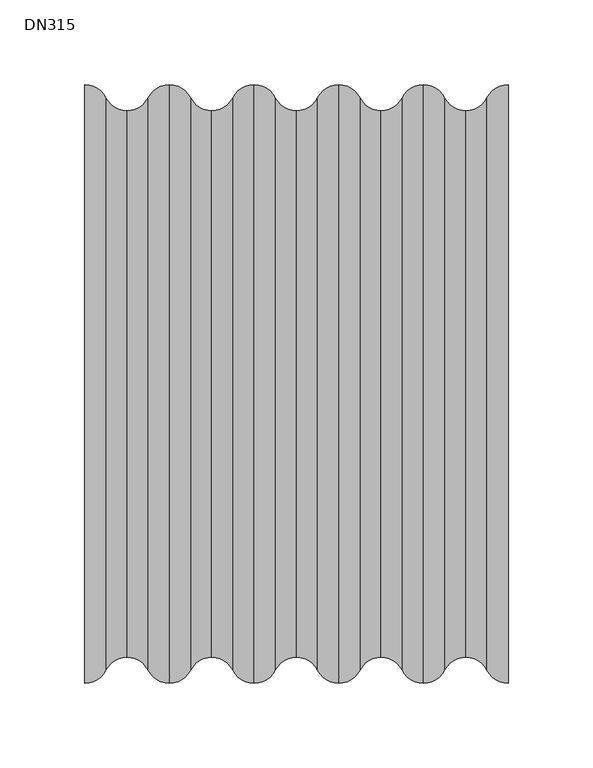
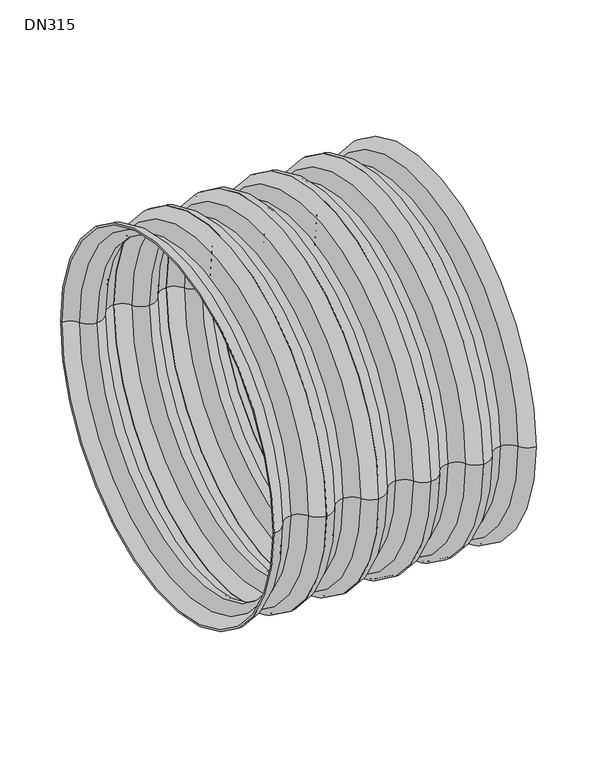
"""IFC4 building model written with IfcOpenShell, lengths in millimetres: pipe fitting geometry, NLRS-90-PIF_Z_DO_NOT_USE_Wavin PVC Buitenriolering Schachtbuis (Nested) : DN315."""

from ifc_helpers import new_model, si_unit, point, frame, origin, place, context, project, spatial, circle_curve, ellipse_curve, trimmed, source, transform, mapped, element, save
from ifc_brep_helpers import plane_surface, revolved_surface, advanced_brep


def dn315_c06aca54(model_context):
    return source(origin(), model_context, "Body", "AdvancedBrep", [
        advanced_brep(
        [(550.0, -176.5, 0.0), (550.0, 176.5, 0.0), (562.5, 168.85, 0.0), (562.5, -168.85, 0.0), (550.0, -174.8, 0.0), (550.0, 174.8, 0.0), (562.5, -167.15, 0.0), (562.5, 167.15, 0.0), (575.0, -159.5, 0.0), (575.0, 159.5, 0.0), (587.5, -167.15, 0.0), (587.5, 167.15, 0.0), (600.0, -174.8, 0.0), (600.0, 174.8, 0.0), (600.0, -176.5, 0.0), (600.0, 176.5, 0.0), (587.5, -168.85, 0.0), (587.5, 168.85, 0.0), (575.0, -161.2, 0.0), (575.0, 161.2, 0.0)],
        [
            (0, 1, circle_curve(frame((550.0, 0.0, 0.0), z_axis=(1.0, 0.0, 0.0), x_axis=(0.0, 1.0, 0.0)), 176.5)),
            (1, 2, circle_curve(frame((550.0, 162.4625817, 0.0), z_axis=(0.0, 0.0, -1.0), x_axis=(1.0, 0.0, 0.0)), 14.0374183)),
            (2, 3, circle_curve(frame((562.5, 0.0, 0.0), z_axis=(-1.0, 0.0, 0.0), x_axis=(0.0, 1.0, 0.0)), 168.85)),
            (3, 0, circle_curve(frame((550.0, -162.4625817, 0.0), z_axis=(0.0, 0.0, -1.0), x_axis=(1.0, 0.0, 0.0)), 14.0374183)),
            (1, 0, circle_curve(frame((550.0, 0.0, 0.0), z_axis=(1.0, 0.0, 0.0), x_axis=(0.0, 1.0, 0.0)), 176.5)),
            (3, 2, circle_curve(frame((562.5, 0.0, 0.0), z_axis=(-1.0, 0.0, 0.0), x_axis=(0.0, 1.0, 0.0)), 168.85)),
            (4, 5, circle_curve(frame((550.0, 0.0, 0.0), z_axis=(1.0, 0.0, 0.0), x_axis=(0.0, 1.0, 0.0)), 174.8)),
            (5, 1),
            (0, 4),
            (5, 4, circle_curve(frame((550.0, 0.0, 0.0), z_axis=(1.0, 0.0, 0.0), x_axis=(0.0, 1.0, 0.0)), 174.8)),
            (6, 7, circle_curve(frame((562.5, 0.0, 0.0), z_axis=(1.0, 0.0, 0.0), x_axis=(0.0, 1.0, 0.0)), 167.15)),
            (7, 5, circle_curve(frame((550.0, 160.7625817, 0.0), z_axis=(0.0, 0.0, 1.0), x_axis=(1.0, 0.0, 0.0)), 14.0374183)),
            (4, 6, circle_curve(frame((550.0, -160.7625817, 0.0), z_axis=(0.0, 0.0, 1.0), x_axis=(1.0, 0.0, 0.0)), 14.0374183)),
            (7, 6, circle_curve(frame((562.5, 0.0, 0.0), z_axis=(1.0, 0.0, 0.0), x_axis=(0.0, 1.0, 0.0)), 167.15)),
            (8, 9, circle_curve(frame((575.0, 0.0, 0.0), z_axis=(1.0, 0.0, 0.0), x_axis=(0.0, 1.0, 0.0)), 159.5)),
            (9, 7, circle_curve(frame((575.0, 173.5374183, 0.0), z_axis=(0.0, 0.0, -1.0), x_axis=(1.0, 0.0, 0.0)), 14.0374183)),
            (6, 8, circle_curve(frame((575.0, -173.5374183, 0.0), z_axis=(0.0, 0.0, -1.0), x_axis=(1.0, 0.0, 0.0)), 14.0374183)),
            (9, 8, circle_curve(frame((575.0, 0.0, 0.0), z_axis=(1.0, 0.0, 0.0), x_axis=(0.0, 1.0, 0.0)), 159.5)),
            (10, 11, circle_curve(frame((587.5, 0.0, 0.0), z_axis=(1.0, 0.0, 0.0), x_axis=(0.0, 1.0, 0.0)), 167.15)),
            (11, 9, circle_curve(frame((575.0, 173.5374183, 0.0), z_axis=(0.0, 0.0, -1.0), x_axis=(1.0, 0.0, 0.0)), 14.0374183)),
            (8, 10, circle_curve(frame((575.0, -173.5374183, 0.0), z_axis=(0.0, 0.0, -1.0), x_axis=(1.0, 0.0, 0.0)), 14.0374183)),
            (11, 10, circle_curve(frame((587.5, 0.0, 0.0), z_axis=(1.0, 0.0, 0.0), x_axis=(0.0, 1.0, 0.0)), 167.15)),
            (12, 13, circle_curve(frame((600.0, 0.0, 0.0), z_axis=(1.0, 0.0, 0.0), x_axis=(0.0, 1.0, 0.0)), 174.8)),
            (13, 11, circle_curve(frame((600.0, 160.7625817, 0.0), z_axis=(0.0, 0.0, 1.0), x_axis=(1.0, 0.0, 0.0)), 14.0374183)),
            (10, 12, circle_curve(frame((600.0, -160.7625817, 0.0), z_axis=(0.0, 0.0, 1.0), x_axis=(1.0, 0.0, 0.0)), 14.0374183)),
            (13, 12, circle_curve(frame((600.0, 0.0, 0.0), z_axis=(1.0, 0.0, 0.0), x_axis=(0.0, 1.0, 0.0)), 174.8)),
            (14, 15, circle_curve(frame((600.0, 0.0, 0.0), z_axis=(1.0, 0.0, 0.0), x_axis=(0.0, 1.0, 0.0)), 176.5)),
            (15, 13),
            (12, 14),
            (15, 14, circle_curve(frame((600.0, 0.0, 0.0), z_axis=(1.0, 0.0, 0.0), x_axis=(0.0, 1.0, 0.0)), 176.5)),
            (16, 17, circle_curve(frame((587.5, 0.0, 0.0), z_axis=(1.0, 0.0, 0.0), x_axis=(0.0, 1.0, 0.0)), 168.85)),
            (17, 15, circle_curve(frame((600.0, 162.4625817, 0.0), z_axis=(0.0, 0.0, -1.0), x_axis=(1.0, 0.0, 0.0)), 14.0374183)),
            (14, 16, circle_curve(frame((600.0, -162.4625817, 0.0), z_axis=(0.0, 0.0, -1.0), x_axis=(1.0, 0.0, 0.0)), 14.0374183)),
            (17, 16, circle_curve(frame((587.5, 0.0, 0.0), z_axis=(1.0, 0.0, 0.0), x_axis=(0.0, 1.0, 0.0)), 168.85)),
            (18, 19, circle_curve(frame((575.0, 0.0, 0.0), z_axis=(1.0, 0.0, 0.0), x_axis=(0.0, 1.0, 0.0)), 161.2)),
            (19, 17, circle_curve(frame((575.0, 175.2374183, 0.0), z_axis=(0.0, 0.0, 1.0), x_axis=(1.0, 0.0, 0.0)), 14.0374183)),
            (16, 18, circle_curve(frame((575.0, -175.2374183, 0.0), z_axis=(0.0, 0.0, 1.0), x_axis=(1.0, 0.0, 0.0)), 14.0374183)),
            (19, 18, circle_curve(frame((575.0, 0.0, 0.0), z_axis=(1.0, 0.0, 0.0), x_axis=(0.0, 1.0, 0.0)), 161.2)),
            (2, 19, circle_curve(frame((575.0, 175.2374183, 0.0), z_axis=(0.0, 0.0, 1.0), x_axis=(1.0, 0.0, 0.0)), 14.0374183)),
            (18, 3, circle_curve(frame((575.0, -175.2374183, 0.0), z_axis=(0.0, 0.0, 1.0), x_axis=(1.0, 0.0, 0.0)), 14.0374183)),
        ],
        [
            revolved_surface(trimmed(ellipse_curve(frame((550.0, 162.4625817, 0.0), z_axis=(0.0, 0.0, 1.0), x_axis=(1.0, 0.0, 0.0)), 14.0374183, 14.0374183), [point((562.5, 168.85, 0.0))], [point((550.0, 176.5, 0.0))], True, "CARTESIAN"), (500.0, 0.0, 0.0), (-1.0, 0.0, 0.0)),
            plane_surface(frame((550.0, 0.0, 0.0), z_axis=(-1.0, 0.0, 0.0), x_axis=(0.0, 1.0, 0.0))),
            revolved_surface(trimmed(ellipse_curve(frame((550.0, 160.7625817, 0.0), z_axis=(0.0, 0.0, -1.0), x_axis=(1.0, 0.0, 0.0)), 14.0374183, 14.0374183), [point((550.0, 174.8, 0.0))], [point((562.5, 167.15, 0.0))], True, "CARTESIAN"), (500.0, 0.0, 0.0), (-1.0, 0.0, 0.0)),
            revolved_surface(trimmed(ellipse_curve(frame((575.0, 173.5374183, 0.0), z_axis=(0.0, 0.0, 1.0), x_axis=(1.0, 0.0, 0.0)), 14.0374183, 14.0374183), [point((562.5, 167.15, 0.0))], [point((575.0, 159.5, 0.0))], True, "CARTESIAN"), (500.0, 0.0, 0.0), (-1.0, 0.0, 0.0)),
            revolved_surface(trimmed(ellipse_curve(frame((575.0, 173.5374183, 0.0), z_axis=(0.0, 0.0, 1.0), x_axis=(1.0, 0.0, 0.0)), 14.0374183, 14.0374183), [point((575.0, 159.5, 0.0))], [point((587.5, 167.15, 0.0))], True, "CARTESIAN"), (500.0, 0.0, 0.0), (-1.0, 0.0, 0.0)),
            revolved_surface(trimmed(ellipse_curve(frame((600.0, 160.7625817, 0.0), z_axis=(0.0, 0.0, -1.0), x_axis=(1.0, 0.0, 0.0)), 14.0374183, 14.0374183), [point((587.5, 167.15, 0.0))], [point((600.0, 174.8, 0.0))], True, "CARTESIAN"), (500.0, 0.0, 0.0), (-1.0, 0.0, 0.0)),
            plane_surface(frame((600.0, 0.0, 0.0), z_axis=(1.0, 0.0, 0.0), x_axis=(0.0, 1.0, 0.0))),
            revolved_surface(trimmed(ellipse_curve(frame((600.0, 162.4625817, 0.0), z_axis=(0.0, 0.0, 1.0), x_axis=(1.0, 0.0, 0.0)), 14.0374183, 14.0374183), [point((600.0, 176.5, 0.0))], [point((587.5, 168.85, 0.0))], True, "CARTESIAN"), (500.0, 0.0, 0.0), (-1.0, 0.0, 0.0)),
            revolved_surface(trimmed(ellipse_curve(frame((575.0, 175.2374183, 0.0), z_axis=(0.0, 0.0, -1.0), x_axis=(1.0, 0.0, 0.0)), 14.0374183, 14.0374183), [point((587.5, 168.85, 0.0))], [point((575.0, 161.2, 0.0))], True, "CARTESIAN"), (500.0, 0.0, 0.0), (-1.0, 0.0, 0.0)),
            revolved_surface(trimmed(ellipse_curve(frame((575.0, 175.2374183, 0.0), z_axis=(0.0, 0.0, -1.0), x_axis=(1.0, 0.0, 0.0)), 14.0374183, 14.0374183), [point((575.0, 161.2, 0.0))], [point((562.5, 168.85, 0.0))], True, "CARTESIAN"), (500.0, 0.0, 0.0), (-1.0, 0.0, 0.0)),
        ],
        [
            (0, [[1, 2, 3, 4]]),
            (0, [[5, -4, 6, -2]]),
            (1, [[7, 8, -1, 9]]),
            (1, [[10, -9, -5, -8]]),
            (2, [[11, 12, -7, 13]]),
            (2, [[14, -13, -10, -12]]),
            (3, [[15, 16, -11, 17]]),
            (3, [[18, -17, -14, -16]]),
            (4, [[19, 20, -15, 21]]),
            (4, [[22, -21, -18, -20]]),
            (5, [[23, 24, -19, 25]]),
            (5, [[26, -25, -22, -24]]),
            (6, [[27, 28, -23, 29]]),
            (6, [[30, -29, -26, -28]]),
            (7, [[31, 32, -27, 33]]),
            (7, [[34, -33, -30, -32]]),
            (8, [[35, 36, -31, 37]]),
            (8, [[38, -37, -34, -36]]),
            (9, [[-3, 39, -35, 40]]),
            (9, [[-6, -40, -38, -39]]),
        ],
    ),
        advanced_brep(
        [(500.0, -176.5, 0.0), (500.0, 176.5, 0.0), (512.5, 168.85, 0.0), (512.5, -168.85, 0.0), (500.0, -174.8, 0.0), (500.0, 174.8, 0.0), (512.5, -167.15, 0.0), (512.5, 167.15, 0.0), (525.0, -159.5, 0.0), (525.0, 159.5, 0.0), (537.5, -167.15, 0.0), (537.5, 167.15, 0.0), (550.0, -174.8, 0.0), (550.0, 174.8, 0.0), (550.0, -176.5, 0.0), (550.0, 176.5, 0.0), (537.5, -168.85, 0.0), (537.5, 168.85, 0.0), (525.0, -161.2, 0.0), (525.0, 161.2, 0.0)],
        [
            (0, 1, circle_curve(frame((500.0, 0.0, 0.0), z_axis=(1.0, 0.0, 0.0), x_axis=(0.0, 1.0, 0.0)), 176.5)),
            (1, 2, circle_curve(frame((500.0, 162.4625817, 0.0), z_axis=(0.0, 0.0, -1.0), x_axis=(1.0, 0.0, 0.0)), 14.0374183)),
            (2, 3, circle_curve(frame((512.5, 0.0, 0.0), z_axis=(-1.0, 0.0, 0.0), x_axis=(0.0, 1.0, 0.0)), 168.85)),
            (3, 0, circle_curve(frame((500.0, -162.4625817, 0.0), z_axis=(0.0, 0.0, -1.0), x_axis=(1.0, 0.0, 0.0)), 14.0374183)),
            (1, 0, circle_curve(frame((500.0, 0.0, 0.0), z_axis=(1.0, 0.0, 0.0), x_axis=(0.0, 1.0, 0.0)), 176.5)),
            (3, 2, circle_curve(frame((512.5, 0.0, 0.0), z_axis=(-1.0, 0.0, 0.0), x_axis=(0.0, 1.0, 0.0)), 168.85)),
            (4, 5, circle_curve(frame((500.0, 0.0, 0.0), z_axis=(1.0, 0.0, 0.0), x_axis=(0.0, 1.0, 0.0)), 174.8)),
            (5, 1),
            (0, 4),
            (5, 4, circle_curve(frame((500.0, 0.0, 0.0), z_axis=(1.0, 0.0, 0.0), x_axis=(0.0, 1.0, 0.0)), 174.8)),
            (6, 7, circle_curve(frame((512.5, 0.0, 0.0), z_axis=(1.0, 0.0, 0.0), x_axis=(0.0, 1.0, 0.0)), 167.15)),
            (7, 5, circle_curve(frame((500.0, 160.7625817, 0.0), z_axis=(0.0, 0.0, 1.0), x_axis=(1.0, 0.0, 0.0)), 14.0374183)),
            (4, 6, circle_curve(frame((500.0, -160.7625817, 0.0), z_axis=(0.0, 0.0, 1.0), x_axis=(1.0, 0.0, 0.0)), 14.0374183)),
            (7, 6, circle_curve(frame((512.5, 0.0, 0.0), z_axis=(1.0, 0.0, 0.0), x_axis=(0.0, 1.0, 0.0)), 167.15)),
            (8, 9, circle_curve(frame((525.0, 0.0, 0.0), z_axis=(1.0, 0.0, 0.0), x_axis=(0.0, 1.0, 0.0)), 159.5)),
            (9, 7, circle_curve(frame((525.0, 173.5374183, 0.0), z_axis=(0.0, 0.0, -1.0), x_axis=(1.0, 0.0, 0.0)), 14.0374183)),
            (6, 8, circle_curve(frame((525.0, -173.5374183, 0.0), z_axis=(0.0, 0.0, -1.0), x_axis=(1.0, 0.0, 0.0)), 14.0374183)),
            (9, 8, circle_curve(frame((525.0, 0.0, 0.0), z_axis=(1.0, 0.0, 0.0), x_axis=(0.0, 1.0, 0.0)), 159.5)),
            (10, 11, circle_curve(frame((537.5, 0.0, 0.0), z_axis=(1.0, 0.0, 0.0), x_axis=(0.0, 1.0, 0.0)), 167.15)),
            (11, 9, circle_curve(frame((525.0, 173.5374183, 0.0), z_axis=(0.0, 0.0, -1.0), x_axis=(1.0, 0.0, 0.0)), 14.0374183)),
            (8, 10, circle_curve(frame((525.0, -173.5374183, 0.0), z_axis=(0.0, 0.0, -1.0), x_axis=(1.0, 0.0, 0.0)), 14.0374183)),
            (11, 10, circle_curve(frame((537.5, 0.0, 0.0), z_axis=(1.0, 0.0, 0.0), x_axis=(0.0, 1.0, 0.0)), 167.15)),
            (12, 13, circle_curve(frame((550.0, 0.0, 0.0), z_axis=(1.0, 0.0, 0.0), x_axis=(0.0, 1.0, 0.0)), 174.8)),
            (13, 11, circle_curve(frame((550.0, 160.7625817, 0.0), z_axis=(0.0, 0.0, 1.0), x_axis=(1.0, 0.0, 0.0)), 14.0374183)),
            (10, 12, circle_curve(frame((550.0, -160.7625817, 0.0), z_axis=(0.0, 0.0, 1.0), x_axis=(1.0, 0.0, 0.0)), 14.0374183)),
            (13, 12, circle_curve(frame((550.0, 0.0, 0.0), z_axis=(1.0, 0.0, 0.0), x_axis=(0.0, 1.0, 0.0)), 174.8)),
            (14, 15, circle_curve(frame((550.0, 0.0, 0.0), z_axis=(1.0, 0.0, 0.0), x_axis=(0.0, 1.0, 0.0)), 176.5)),
            (15, 13),
            (12, 14),
            (15, 14, circle_curve(frame((550.0, 0.0, 0.0), z_axis=(1.0, 0.0, 0.0), x_axis=(0.0, 1.0, 0.0)), 176.5)),
            (16, 17, circle_curve(frame((537.5, 0.0, 0.0), z_axis=(1.0, 0.0, 0.0), x_axis=(0.0, 1.0, 0.0)), 168.85)),
            (17, 15, circle_curve(frame((550.0, 162.4625817, 0.0), z_axis=(0.0, 0.0, -1.0), x_axis=(1.0, 0.0, 0.0)), 14.0374183)),
            (14, 16, circle_curve(frame((550.0, -162.4625817, 0.0), z_axis=(0.0, 0.0, -1.0), x_axis=(1.0, 0.0, 0.0)), 14.0374183)),
            (17, 16, circle_curve(frame((537.5, 0.0, 0.0), z_axis=(1.0, 0.0, 0.0), x_axis=(0.0, 1.0, 0.0)), 168.85)),
            (18, 19, circle_curve(frame((525.0, 0.0, 0.0), z_axis=(1.0, 0.0, 0.0), x_axis=(0.0, 1.0, 0.0)), 161.2)),
            (19, 17, circle_curve(frame((525.0, 175.2374183, 0.0), z_axis=(0.0, 0.0, 1.0), x_axis=(1.0, 0.0, 0.0)), 14.0374183)),
            (16, 18, circle_curve(frame((525.0, -175.2374183, 0.0), z_axis=(0.0, 0.0, 1.0), x_axis=(1.0, 0.0, 0.0)), 14.0374183)),
            (19, 18, circle_curve(frame((525.0, 0.0, 0.0), z_axis=(1.0, 0.0, 0.0), x_axis=(0.0, 1.0, 0.0)), 161.2)),
            (2, 19, circle_curve(frame((525.0, 175.2374183, 0.0), z_axis=(0.0, 0.0, 1.0), x_axis=(1.0, 0.0, 0.0)), 14.0374183)),
            (18, 3, circle_curve(frame((525.0, -175.2374183, 0.0), z_axis=(0.0, 0.0, 1.0), x_axis=(1.0, 0.0, 0.0)), 14.0374183)),
        ],
        [
            revolved_surface(trimmed(ellipse_curve(frame((500.0, 162.4625817, 0.0), z_axis=(0.0, 0.0, 1.0), x_axis=(1.0, 0.0, 0.0)), 14.0374183, 14.0374183), [point((512.5, 168.85, 0.0))], [point((500.0, 176.5, 0.0))], True, "CARTESIAN"), (450.0, 0.0, 0.0), (-1.0, 0.0, 0.0)),
            plane_surface(frame((500.0, 0.0, 0.0), z_axis=(-1.0, 0.0, 0.0), x_axis=(0.0, 1.0, 0.0))),
            revolved_surface(trimmed(ellipse_curve(frame((500.0, 160.7625817, 0.0), z_axis=(0.0, 0.0, -1.0), x_axis=(1.0, 0.0, 0.0)), 14.0374183, 14.0374183), [point((500.0, 174.8, 0.0))], [point((512.5, 167.15, 0.0))], True, "CARTESIAN"), (450.0, 0.0, 0.0), (-1.0, 0.0, 0.0)),
            revolved_surface(trimmed(ellipse_curve(frame((525.0, 173.5374183, 0.0), z_axis=(0.0, 0.0, 1.0), x_axis=(1.0, 0.0, 0.0)), 14.0374183, 14.0374183), [point((512.5, 167.15, 0.0))], [point((525.0, 159.5, 0.0))], True, "CARTESIAN"), (450.0, 0.0, 0.0), (-1.0, 0.0, 0.0)),
            revolved_surface(trimmed(ellipse_curve(frame((525.0, 173.5374183, 0.0), z_axis=(0.0, 0.0, 1.0), x_axis=(1.0, 0.0, 0.0)), 14.0374183, 14.0374183), [point((525.0, 159.5, 0.0))], [point((537.5, 167.15, 0.0))], True, "CARTESIAN"), (450.0, 0.0, 0.0), (-1.0, 0.0, 0.0)),
            revolved_surface(trimmed(ellipse_curve(frame((550.0, 160.7625817, 0.0), z_axis=(0.0, 0.0, -1.0), x_axis=(1.0, 0.0, 0.0)), 14.0374183, 14.0374183), [point((537.5, 167.15, 0.0))], [point((550.0, 174.8, 0.0))], True, "CARTESIAN"), (450.0, 0.0, 0.0), (-1.0, 0.0, 0.0)),
            plane_surface(frame((550.0, 0.0, 0.0), z_axis=(1.0, 0.0, 0.0), x_axis=(0.0, 1.0, 0.0))),
            revolved_surface(trimmed(ellipse_curve(frame((550.0, 162.4625817, 0.0), z_axis=(0.0, 0.0, 1.0), x_axis=(1.0, 0.0, 0.0)), 14.0374183, 14.0374183), [point((550.0, 176.5, 0.0))], [point((537.5, 168.85, 0.0))], True, "CARTESIAN"), (450.0, 0.0, 0.0), (-1.0, 0.0, 0.0)),
            revolved_surface(trimmed(ellipse_curve(frame((525.0, 175.2374183, 0.0), z_axis=(0.0, 0.0, -1.0), x_axis=(1.0, 0.0, 0.0)), 14.0374183, 14.0374183), [point((537.5, 168.85, 0.0))], [point((525.0, 161.2, 0.0))], True, "CARTESIAN"), (450.0, 0.0, 0.0), (-1.0, 0.0, 0.0)),
            revolved_surface(trimmed(ellipse_curve(frame((525.0, 175.2374183, 0.0), z_axis=(0.0, 0.0, -1.0), x_axis=(1.0, 0.0, 0.0)), 14.0374183, 14.0374183), [point((525.0, 161.2, 0.0))], [point((512.5, 168.85, 0.0))], True, "CARTESIAN"), (450.0, 0.0, 0.0), (-1.0, 0.0, 0.0)),
        ],
        [
            (0, [[1, 2, 3, 4]]),
            (0, [[5, -4, 6, -2]]),
            (1, [[7, 8, -1, 9]]),
            (1, [[10, -9, -5, -8]]),
            (2, [[11, 12, -7, 13]]),
            (2, [[14, -13, -10, -12]]),
            (3, [[15, 16, -11, 17]]),
            (3, [[18, -17, -14, -16]]),
            (4, [[19, 20, -15, 21]]),
            (4, [[22, -21, -18, -20]]),
            (5, [[23, 24, -19, 25]]),
            (5, [[26, -25, -22, -24]]),
            (6, [[27, 28, -23, 29]]),
            (6, [[30, -29, -26, -28]]),
            (7, [[31, 32, -27, 33]]),
            (7, [[34, -33, -30, -32]]),
            (8, [[35, 36, -31, 37]]),
            (8, [[38, -37, -34, -36]]),
            (9, [[-3, 39, -35, 40]]),
            (9, [[-6, -40, -38, -39]]),
        ],
    ),
        advanced_brep(
        [(450.0, -176.5, 0.0), (450.0, 176.5, 0.0), (462.5, 168.85, 0.0), (462.5, -168.85, 0.0), (450.0, -174.8, 0.0), (450.0, 174.8, 0.0), (462.5, -167.15, 0.0), (462.5, 167.15, 0.0), (475.0, -159.5, 0.0), (475.0, 159.5, 0.0), (487.5, -167.15, 0.0), (487.5, 167.15, 0.0), (500.0, -174.8, 0.0), (500.0, 174.8, 0.0), (500.0, -176.5, 0.0), (500.0, 176.5, 0.0), (487.5, -168.85, 0.0), (487.5, 168.85, 0.0), (475.0, -161.2, 0.0), (475.0, 161.2, 0.0)],
        [
            (0, 1, circle_curve(frame((450.0, 0.0, 0.0), z_axis=(1.0, 0.0, 0.0), x_axis=(0.0, 1.0, 0.0)), 176.5)),
            (1, 2, circle_curve(frame((450.0, 162.4625817, 0.0), z_axis=(0.0, 0.0, -1.0), x_axis=(1.0, 0.0, 0.0)), 14.0374183)),
            (2, 3, circle_curve(frame((462.5, 0.0, 0.0), z_axis=(-1.0, 0.0, 0.0), x_axis=(0.0, 1.0, 0.0)), 168.85)),
            (3, 0, circle_curve(frame((450.0, -162.4625817, 0.0), z_axis=(0.0, 0.0, -1.0), x_axis=(1.0, 0.0, 0.0)), 14.0374183)),
            (1, 0, circle_curve(frame((450.0, 0.0, 0.0), z_axis=(1.0, 0.0, 0.0), x_axis=(0.0, 1.0, 0.0)), 176.5)),
            (3, 2, circle_curve(frame((462.5, 0.0, 0.0), z_axis=(-1.0, 0.0, 0.0), x_axis=(0.0, 1.0, 0.0)), 168.85)),
            (4, 5, circle_curve(frame((450.0, 0.0, 0.0), z_axis=(1.0, 0.0, 0.0), x_axis=(0.0, 1.0, 0.0)), 174.8)),
            (5, 1),
            (0, 4),
            (5, 4, circle_curve(frame((450.0, 0.0, 0.0), z_axis=(1.0, 0.0, 0.0), x_axis=(0.0, 1.0, 0.0)), 174.8)),
            (6, 7, circle_curve(frame((462.5, 0.0, 0.0), z_axis=(1.0, 0.0, 0.0), x_axis=(0.0, 1.0, 0.0)), 167.15)),
            (7, 5, circle_curve(frame((450.0, 160.7625817, 0.0), z_axis=(0.0, 0.0, 1.0), x_axis=(1.0, 0.0, 0.0)), 14.0374183)),
            (4, 6, circle_curve(frame((450.0, -160.7625817, 0.0), z_axis=(0.0, 0.0, 1.0), x_axis=(1.0, 0.0, 0.0)), 14.0374183)),
            (7, 6, circle_curve(frame((462.5, 0.0, 0.0), z_axis=(1.0, 0.0, 0.0), x_axis=(0.0, 1.0, 0.0)), 167.15)),
            (8, 9, circle_curve(frame((475.0, 0.0, 0.0), z_axis=(1.0, 0.0, 0.0), x_axis=(0.0, 1.0, 0.0)), 159.5)),
            (9, 7, circle_curve(frame((475.0, 173.5374183, 0.0), z_axis=(0.0, 0.0, -1.0), x_axis=(1.0, 0.0, 0.0)), 14.0374183)),
            (6, 8, circle_curve(frame((475.0, -173.5374183, 0.0), z_axis=(0.0, 0.0, -1.0), x_axis=(1.0, 0.0, 0.0)), 14.0374183)),
            (9, 8, circle_curve(frame((475.0, 0.0, 0.0), z_axis=(1.0, 0.0, 0.0), x_axis=(0.0, 1.0, 0.0)), 159.5)),
            (10, 11, circle_curve(frame((487.5, 0.0, 0.0), z_axis=(1.0, 0.0, 0.0), x_axis=(0.0, 1.0, 0.0)), 167.15)),
            (11, 9, circle_curve(frame((475.0, 173.5374183, 0.0), z_axis=(0.0, 0.0, -1.0), x_axis=(1.0, 0.0, 0.0)), 14.0374183)),
            (8, 10, circle_curve(frame((475.0, -173.5374183, 0.0), z_axis=(0.0, 0.0, -1.0), x_axis=(1.0, 0.0, 0.0)), 14.0374183)),
            (11, 10, circle_curve(frame((487.5, 0.0, 0.0), z_axis=(1.0, 0.0, 0.0), x_axis=(0.0, 1.0, 0.0)), 167.15)),
            (12, 13, circle_curve(frame((500.0, 0.0, 0.0), z_axis=(1.0, 0.0, 0.0), x_axis=(0.0, 1.0, 0.0)), 174.8)),
            (13, 11, circle_curve(frame((500.0, 160.7625817, 0.0), z_axis=(0.0, 0.0, 1.0), x_axis=(1.0, 0.0, 0.0)), 14.0374183)),
            (10, 12, circle_curve(frame((500.0, -160.7625817, 0.0), z_axis=(0.0, 0.0, 1.0), x_axis=(1.0, 0.0, 0.0)), 14.0374183)),
            (13, 12, circle_curve(frame((500.0, 0.0, 0.0), z_axis=(1.0, 0.0, 0.0), x_axis=(0.0, 1.0, 0.0)), 174.8)),
            (14, 15, circle_curve(frame((500.0, 0.0, 0.0), z_axis=(1.0, 0.0, 0.0), x_axis=(0.0, 1.0, 0.0)), 176.5)),
            (15, 13),
            (12, 14),
            (15, 14, circle_curve(frame((500.0, 0.0, 0.0), z_axis=(1.0, 0.0, 0.0), x_axis=(0.0, 1.0, 0.0)), 176.5)),
            (16, 17, circle_curve(frame((487.5, 0.0, 0.0), z_axis=(1.0, 0.0, 0.0), x_axis=(0.0, 1.0, 0.0)), 168.85)),
            (17, 15, circle_curve(frame((500.0, 162.4625817, 0.0), z_axis=(0.0, 0.0, -1.0), x_axis=(1.0, 0.0, 0.0)), 14.0374183)),
            (14, 16, circle_curve(frame((500.0, -162.4625817, 0.0), z_axis=(0.0, 0.0, -1.0), x_axis=(1.0, 0.0, 0.0)), 14.0374183)),
            (17, 16, circle_curve(frame((487.5, 0.0, 0.0), z_axis=(1.0, 0.0, 0.0), x_axis=(0.0, 1.0, 0.0)), 168.85)),
            (18, 19, circle_curve(frame((475.0, 0.0, 0.0), z_axis=(1.0, 0.0, 0.0), x_axis=(0.0, 1.0, 0.0)), 161.2)),
            (19, 17, circle_curve(frame((475.0, 175.2374183, 0.0), z_axis=(0.0, 0.0, 1.0), x_axis=(1.0, 0.0, 0.0)), 14.0374183)),
            (16, 18, circle_curve(frame((475.0, -175.2374183, 0.0), z_axis=(0.0, 0.0, 1.0), x_axis=(1.0, 0.0, 0.0)), 14.0374183)),
            (19, 18, circle_curve(frame((475.0, 0.0, 0.0), z_axis=(1.0, 0.0, 0.0), x_axis=(0.0, 1.0, 0.0)), 161.2)),
            (2, 19, circle_curve(frame((475.0, 175.2374183, 0.0), z_axis=(0.0, 0.0, 1.0), x_axis=(1.0, 0.0, 0.0)), 14.0374183)),
            (18, 3, circle_curve(frame((475.0, -175.2374183, 0.0), z_axis=(0.0, 0.0, 1.0), x_axis=(1.0, 0.0, 0.0)), 14.0374183)),
        ],
        [
            revolved_surface(trimmed(ellipse_curve(frame((450.0, 162.4625817, 0.0), z_axis=(0.0, 0.0, 1.0), x_axis=(1.0, 0.0, 0.0)), 14.0374183, 14.0374183), [point((462.5, 168.85, 0.0))], [point((450.0, 176.5, 0.0))], True, "CARTESIAN"), (400.0, 0.0, 0.0), (-1.0, 0.0, 0.0)),
            plane_surface(frame((450.0, 0.0, 0.0), z_axis=(-1.0, 0.0, 0.0), x_axis=(0.0, 1.0, 0.0))),
            revolved_surface(trimmed(ellipse_curve(frame((450.0, 160.7625817, 0.0), z_axis=(0.0, 0.0, -1.0), x_axis=(1.0, 0.0, 0.0)), 14.0374183, 14.0374183), [point((450.0, 174.8, 0.0))], [point((462.5, 167.15, 0.0))], True, "CARTESIAN"), (400.0, 0.0, 0.0), (-1.0, 0.0, 0.0)),
            revolved_surface(trimmed(ellipse_curve(frame((475.0, 173.5374183, 0.0), z_axis=(0.0, 0.0, 1.0), x_axis=(1.0, 0.0, 0.0)), 14.0374183, 14.0374183), [point((462.5, 167.15, 0.0))], [point((475.0, 159.5, 0.0))], True, "CARTESIAN"), (400.0, 0.0, 0.0), (-1.0, 0.0, 0.0)),
            revolved_surface(trimmed(ellipse_curve(frame((475.0, 173.5374183, 0.0), z_axis=(0.0, 0.0, 1.0), x_axis=(1.0, 0.0, 0.0)), 14.0374183, 14.0374183), [point((475.0, 159.5, 0.0))], [point((487.5, 167.15, 0.0))], True, "CARTESIAN"), (400.0, 0.0, 0.0), (-1.0, 0.0, 0.0)),
            revolved_surface(trimmed(ellipse_curve(frame((500.0, 160.7625817, 0.0), z_axis=(0.0, 0.0, -1.0), x_axis=(1.0, 0.0, 0.0)), 14.0374183, 14.0374183), [point((487.5, 167.15, 0.0))], [point((500.0, 174.8, 0.0))], True, "CARTESIAN"), (400.0, 0.0, 0.0), (-1.0, 0.0, 0.0)),
            plane_surface(frame((500.0, 0.0, 0.0), z_axis=(1.0, 0.0, 0.0), x_axis=(0.0, 1.0, 0.0))),
            revolved_surface(trimmed(ellipse_curve(frame((500.0, 162.4625817, 0.0), z_axis=(0.0, 0.0, 1.0), x_axis=(1.0, 0.0, 0.0)), 14.0374183, 14.0374183), [point((500.0, 176.5, 0.0))], [point((487.5, 168.85, 0.0))], True, "CARTESIAN"), (400.0, 0.0, 0.0), (-1.0, 0.0, 0.0)),
            revolved_surface(trimmed(ellipse_curve(frame((475.0, 175.2374183, 0.0), z_axis=(0.0, 0.0, -1.0), x_axis=(1.0, 0.0, 0.0)), 14.0374183, 14.0374183), [point((487.5, 168.85, 0.0))], [point((475.0, 161.2, 0.0))], True, "CARTESIAN"), (400.0, 0.0, 0.0), (-1.0, 0.0, 0.0)),
            revolved_surface(trimmed(ellipse_curve(frame((475.0, 175.2374183, 0.0), z_axis=(0.0, 0.0, -1.0), x_axis=(1.0, 0.0, 0.0)), 14.0374183, 14.0374183), [point((475.0, 161.2, 0.0))], [point((462.5, 168.85, 0.0))], True, "CARTESIAN"), (400.0, 0.0, 0.0), (-1.0, 0.0, 0.0)),
        ],
        [
            (0, [[1, 2, 3, 4]]),
            (0, [[5, -4, 6, -2]]),
            (1, [[7, 8, -1, 9]]),
            (1, [[10, -9, -5, -8]]),
            (2, [[11, 12, -7, 13]]),
            (2, [[14, -13, -10, -12]]),
            (3, [[15, 16, -11, 17]]),
            (3, [[18, -17, -14, -16]]),
            (4, [[19, 20, -15, 21]]),
            (4, [[22, -21, -18, -20]]),
            (5, [[23, 24, -19, 25]]),
            (5, [[26, -25, -22, -24]]),
            (6, [[27, 28, -23, 29]]),
            (6, [[30, -29, -26, -28]]),
            (7, [[31, 32, -27, 33]]),
            (7, [[34, -33, -30, -32]]),
            (8, [[35, 36, -31, 37]]),
            (8, [[38, -37, -34, -36]]),
            (9, [[-3, 39, -35, 40]]),
            (9, [[-6, -40, -38, -39]]),
        ],
    ),
        advanced_brep(
        [(400.0, -176.5, 0.0), (400.0, 176.5, 0.0), (412.5, 168.85, 0.0), (412.5, -168.85, 0.0), (400.0, -174.8, 0.0), (400.0, 174.8, 0.0), (412.5, -167.15, 0.0), (412.5, 167.15, 0.0), (425.0, -159.5, 0.0), (425.0, 159.5, 0.0), (437.5, -167.15, 0.0), (437.5, 167.15, 0.0), (450.0, -174.8, 0.0), (450.0, 174.8, 0.0), (450.0, -176.5, 0.0), (450.0, 176.5, 0.0), (437.5, -168.85, 0.0), (437.5, 168.85, 0.0), (425.0, -161.2, 0.0), (425.0, 161.2, 0.0)],
        [
            (0, 1, circle_curve(frame((400.0, 0.0, 0.0), z_axis=(1.0, 0.0, 0.0), x_axis=(0.0, 1.0, 0.0)), 176.5)),
            (1, 2, circle_curve(frame((400.0, 162.4625817, 0.0), z_axis=(0.0, 0.0, -1.0), x_axis=(1.0, 0.0, 0.0)), 14.0374183)),
            (2, 3, circle_curve(frame((412.5, 0.0, 0.0), z_axis=(-1.0, 0.0, 0.0), x_axis=(0.0, 1.0, 0.0)), 168.85)),
            (3, 0, circle_curve(frame((400.0, -162.4625817, 0.0), z_axis=(0.0, 0.0, -1.0), x_axis=(1.0, 0.0, 0.0)), 14.0374183)),
            (1, 0, circle_curve(frame((400.0, 0.0, 0.0), z_axis=(1.0, 0.0, 0.0), x_axis=(0.0, 1.0, 0.0)), 176.5)),
            (3, 2, circle_curve(frame((412.5, 0.0, 0.0), z_axis=(-1.0, 0.0, 0.0), x_axis=(0.0, 1.0, 0.0)), 168.85)),
            (4, 5, circle_curve(frame((400.0, 0.0, 0.0), z_axis=(1.0, 0.0, 0.0), x_axis=(0.0, 1.0, 0.0)), 174.8)),
            (5, 1),
            (0, 4),
            (5, 4, circle_curve(frame((400.0, 0.0, 0.0), z_axis=(1.0, 0.0, 0.0), x_axis=(0.0, 1.0, 0.0)), 174.8)),
            (6, 7, circle_curve(frame((412.5, 0.0, 0.0), z_axis=(1.0, 0.0, 0.0), x_axis=(0.0, 1.0, 0.0)), 167.15)),
            (7, 5, circle_curve(frame((400.0, 160.7625817, 0.0), z_axis=(0.0, 0.0, 1.0), x_axis=(1.0, 0.0, 0.0)), 14.0374183)),
            (4, 6, circle_curve(frame((400.0, -160.7625817, 0.0), z_axis=(0.0, 0.0, 1.0), x_axis=(1.0, 0.0, 0.0)), 14.0374183)),
            (7, 6, circle_curve(frame((412.5, 0.0, 0.0), z_axis=(1.0, 0.0, 0.0), x_axis=(0.0, 1.0, 0.0)), 167.15)),
            (8, 9, circle_curve(frame((425.0, 0.0, 0.0), z_axis=(1.0, 0.0, 0.0), x_axis=(0.0, 1.0, 0.0)), 159.5)),
            (9, 7, circle_curve(frame((425.0, 173.5374183, 0.0), z_axis=(0.0, 0.0, -1.0), x_axis=(1.0, 0.0, 0.0)), 14.0374183)),
            (6, 8, circle_curve(frame((425.0, -173.5374183, 0.0), z_axis=(0.0, 0.0, -1.0), x_axis=(1.0, 0.0, 0.0)), 14.0374183)),
            (9, 8, circle_curve(frame((425.0, 0.0, 0.0), z_axis=(1.0, 0.0, 0.0), x_axis=(0.0, 1.0, 0.0)), 159.5)),
            (10, 11, circle_curve(frame((437.5, 0.0, 0.0), z_axis=(1.0, 0.0, 0.0), x_axis=(0.0, 1.0, 0.0)), 167.15)),
            (11, 9, circle_curve(frame((425.0, 173.5374183, 0.0), z_axis=(0.0, 0.0, -1.0), x_axis=(1.0, 0.0, 0.0)), 14.0374183)),
            (8, 10, circle_curve(frame((425.0, -173.5374183, 0.0), z_axis=(0.0, 0.0, -1.0), x_axis=(1.0, 0.0, 0.0)), 14.0374183)),
            (11, 10, circle_curve(frame((437.5, 0.0, 0.0), z_axis=(1.0, 0.0, 0.0), x_axis=(0.0, 1.0, 0.0)), 167.15)),
            (12, 13, circle_curve(frame((450.0, 0.0, 0.0), z_axis=(1.0, 0.0, 0.0), x_axis=(0.0, 1.0, 0.0)), 174.8)),
            (13, 11, circle_curve(frame((450.0, 160.7625817, 0.0), z_axis=(0.0, 0.0, 1.0), x_axis=(1.0, 0.0, 0.0)), 14.0374183)),
            (10, 12, circle_curve(frame((450.0, -160.7625817, 0.0), z_axis=(0.0, 0.0, 1.0), x_axis=(1.0, 0.0, 0.0)), 14.0374183)),
            (13, 12, circle_curve(frame((450.0, 0.0, 0.0), z_axis=(1.0, 0.0, 0.0), x_axis=(0.0, 1.0, 0.0)), 174.8)),
            (14, 15, circle_curve(frame((450.0, 0.0, 0.0), z_axis=(1.0, 0.0, 0.0), x_axis=(0.0, 1.0, 0.0)), 176.5)),
            (15, 13),
            (12, 14),
            (15, 14, circle_curve(frame((450.0, 0.0, 0.0), z_axis=(1.0, 0.0, 0.0), x_axis=(0.0, 1.0, 0.0)), 176.5)),
            (16, 17, circle_curve(frame((437.5, 0.0, 0.0), z_axis=(1.0, 0.0, 0.0), x_axis=(0.0, 1.0, 0.0)), 168.85)),
            (17, 15, circle_curve(frame((450.0, 162.4625817, 0.0), z_axis=(0.0, 0.0, -1.0), x_axis=(1.0, 0.0, 0.0)), 14.0374183)),
            (14, 16, circle_curve(frame((450.0, -162.4625817, 0.0), z_axis=(0.0, 0.0, -1.0), x_axis=(1.0, 0.0, 0.0)), 14.0374183)),
            (17, 16, circle_curve(frame((437.5, 0.0, 0.0), z_axis=(1.0, 0.0, 0.0), x_axis=(0.0, 1.0, 0.0)), 168.85)),
            (18, 19, circle_curve(frame((425.0, 0.0, 0.0), z_axis=(1.0, 0.0, 0.0), x_axis=(0.0, 1.0, 0.0)), 161.2)),
            (19, 17, circle_curve(frame((425.0, 175.2374183, 0.0), z_axis=(0.0, 0.0, 1.0), x_axis=(1.0, 0.0, 0.0)), 14.0374183)),
            (16, 18, circle_curve(frame((425.0, -175.2374183, 0.0), z_axis=(0.0, 0.0, 1.0), x_axis=(1.0, 0.0, 0.0)), 14.0374183)),
            (19, 18, circle_curve(frame((425.0, 0.0, 0.0), z_axis=(1.0, 0.0, 0.0), x_axis=(0.0, 1.0, 0.0)), 161.2)),
            (2, 19, circle_curve(frame((425.0, 175.2374183, 0.0), z_axis=(0.0, 0.0, 1.0), x_axis=(1.0, 0.0, 0.0)), 14.0374183)),
            (18, 3, circle_curve(frame((425.0, -175.2374183, 0.0), z_axis=(0.0, 0.0, 1.0), x_axis=(1.0, 0.0, 0.0)), 14.0374183)),
        ],
        [
            revolved_surface(trimmed(ellipse_curve(frame((400.0, 162.4625817, 0.0), z_axis=(0.0, 0.0, 1.0), x_axis=(1.0, 0.0, 0.0)), 14.0374183, 14.0374183), [point((412.5, 168.85, 0.0))], [point((400.0, 176.5, 0.0))], True, "CARTESIAN"), (350.0, 0.0, 0.0), (-1.0, 0.0, 0.0)),
            plane_surface(frame((400.0, 0.0, 0.0), z_axis=(-1.0, 0.0, 0.0), x_axis=(0.0, 1.0, 0.0))),
            revolved_surface(trimmed(ellipse_curve(frame((400.0, 160.7625817, 0.0), z_axis=(0.0, 0.0, -1.0), x_axis=(1.0, 0.0, 0.0)), 14.0374183, 14.0374183), [point((400.0, 174.8, 0.0))], [point((412.5, 167.15, 0.0))], True, "CARTESIAN"), (350.0, 0.0, 0.0), (-1.0, 0.0, 0.0)),
            revolved_surface(trimmed(ellipse_curve(frame((425.0, 173.5374183, 0.0), z_axis=(0.0, 0.0, 1.0), x_axis=(1.0, 0.0, 0.0)), 14.0374183, 14.0374183), [point((412.5, 167.15, 0.0))], [point((425.0, 159.5, 0.0))], True, "CARTESIAN"), (350.0, 0.0, 0.0), (-1.0, 0.0, 0.0)),
            revolved_surface(trimmed(ellipse_curve(frame((425.0, 173.5374183, 0.0), z_axis=(0.0, 0.0, 1.0), x_axis=(1.0, 0.0, 0.0)), 14.0374183, 14.0374183), [point((425.0, 159.5, 0.0))], [point((437.5, 167.15, 0.0))], True, "CARTESIAN"), (350.0, 0.0, 0.0), (-1.0, 0.0, 0.0)),
            revolved_surface(trimmed(ellipse_curve(frame((450.0, 160.7625817, 0.0), z_axis=(0.0, 0.0, -1.0), x_axis=(1.0, 0.0, 0.0)), 14.0374183, 14.0374183), [point((437.5, 167.15, 0.0))], [point((450.0, 174.8, 0.0))], True, "CARTESIAN"), (350.0, 0.0, 0.0), (-1.0, 0.0, 0.0)),
            plane_surface(frame((450.0, 0.0, 0.0), z_axis=(1.0, 0.0, 0.0), x_axis=(0.0, 1.0, 0.0))),
            revolved_surface(trimmed(ellipse_curve(frame((450.0, 162.4625817, 0.0), z_axis=(0.0, 0.0, 1.0), x_axis=(1.0, 0.0, 0.0)), 14.0374183, 14.0374183), [point((450.0, 176.5, 0.0))], [point((437.5, 168.85, 0.0))], True, "CARTESIAN"), (350.0, 0.0, 0.0), (-1.0, 0.0, 0.0)),
            revolved_surface(trimmed(ellipse_curve(frame((425.0, 175.2374183, 0.0), z_axis=(0.0, 0.0, -1.0), x_axis=(1.0, 0.0, 0.0)), 14.0374183, 14.0374183), [point((437.5, 168.85, 0.0))], [point((425.0, 161.2, 0.0))], True, "CARTESIAN"), (350.0, 0.0, 0.0), (-1.0, 0.0, 0.0)),
            revolved_surface(trimmed(ellipse_curve(frame((425.0, 175.2374183, 0.0), z_axis=(0.0, 0.0, -1.0), x_axis=(1.0, 0.0, 0.0)), 14.0374183, 14.0374183), [point((425.0, 161.2, 0.0))], [point((412.5, 168.85, 0.0))], True, "CARTESIAN"), (350.0, 0.0, 0.0), (-1.0, 0.0, 0.0)),
        ],
        [
            (0, [[1, 2, 3, 4]]),
            (0, [[5, -4, 6, -2]]),
            (1, [[7, 8, -1, 9]]),
            (1, [[10, -9, -5, -8]]),
            (2, [[11, 12, -7, 13]]),
            (2, [[14, -13, -10, -12]]),
            (3, [[15, 16, -11, 17]]),
            (3, [[18, -17, -14, -16]]),
            (4, [[19, 20, -15, 21]]),
            (4, [[22, -21, -18, -20]]),
            (5, [[23, 24, -19, 25]]),
            (5, [[26, -25, -22, -24]]),
            (6, [[27, 28, -23, 29]]),
            (6, [[30, -29, -26, -28]]),
            (7, [[31, 32, -27, 33]]),
            (7, [[34, -33, -30, -32]]),
            (8, [[35, 36, -31, 37]]),
            (8, [[38, -37, -34, -36]]),
            (9, [[-3, 39, -35, 40]]),
            (9, [[-6, -40, -38, -39]]),
        ],
    ),
        advanced_brep(
        [(350.0, -176.5, 0.0), (350.0, 176.5, 0.0), (362.5, 168.85, 0.0), (362.5, -168.85, 0.0), (350.0, -174.8, 0.0), (350.0, 174.8, 0.0), (362.5, -167.15, 0.0), (362.5, 167.15, 0.0), (375.0, -159.5, 0.0), (375.0, 159.5, 0.0), (387.5, -167.15, 0.0), (387.5, 167.15, 0.0), (400.0, -174.8, 0.0), (400.0, 174.8, 0.0), (400.0, -176.5, 0.0), (400.0, 176.5, 0.0), (387.5, -168.85, 0.0), (387.5, 168.85, 0.0), (375.0, -161.2, 0.0), (375.0, 161.2, 0.0)],
        [
            (0, 1, circle_curve(frame((350.0, 0.0, 0.0), z_axis=(1.0, 0.0, 0.0), x_axis=(0.0, 1.0, 0.0)), 176.5)),
            (1, 2, circle_curve(frame((350.0, 162.4625817, 0.0), z_axis=(0.0, 0.0, -1.0), x_axis=(1.0, 0.0, 0.0)), 14.0374183)),
            (2, 3, circle_curve(frame((362.5, 0.0, 0.0), z_axis=(-1.0, 0.0, 0.0), x_axis=(0.0, 1.0, 0.0)), 168.85)),
            (3, 0, circle_curve(frame((350.0, -162.4625817, 0.0), z_axis=(0.0, 0.0, -1.0), x_axis=(1.0, 0.0, 0.0)), 14.0374183)),
            (1, 0, circle_curve(frame((350.0, 0.0, 0.0), z_axis=(1.0, 0.0, 0.0), x_axis=(0.0, 1.0, 0.0)), 176.5)),
            (3, 2, circle_curve(frame((362.5, 0.0, 0.0), z_axis=(-1.0, 0.0, 0.0), x_axis=(0.0, 1.0, 0.0)), 168.85)),
            (4, 5, circle_curve(frame((350.0, 0.0, 0.0), z_axis=(1.0, 0.0, 0.0), x_axis=(0.0, 1.0, 0.0)), 174.8)),
            (5, 1),
            (0, 4),
            (5, 4, circle_curve(frame((350.0, 0.0, 0.0), z_axis=(1.0, 0.0, 0.0), x_axis=(0.0, 1.0, 0.0)), 174.8)),
            (6, 7, circle_curve(frame((362.5, 0.0, 0.0), z_axis=(1.0, 0.0, 0.0), x_axis=(0.0, 1.0, 0.0)), 167.15)),
            (7, 5, circle_curve(frame((350.0, 160.7625817, 0.0), z_axis=(0.0, 0.0, 1.0), x_axis=(1.0, 0.0, 0.0)), 14.0374183)),
            (4, 6, circle_curve(frame((350.0, -160.7625817, 0.0), z_axis=(0.0, 0.0, 1.0), x_axis=(1.0, 0.0, 0.0)), 14.0374183)),
            (7, 6, circle_curve(frame((362.5, 0.0, 0.0), z_axis=(1.0, 0.0, 0.0), x_axis=(0.0, 1.0, 0.0)), 167.15)),
            (8, 9, circle_curve(frame((375.0, 0.0, 0.0), z_axis=(1.0, 0.0, 0.0), x_axis=(0.0, 1.0, 0.0)), 159.5)),
            (9, 7, circle_curve(frame((375.0, 173.5374183, 0.0), z_axis=(0.0, 0.0, -1.0), x_axis=(1.0, 0.0, 0.0)), 14.0374183)),
            (6, 8, circle_curve(frame((375.0, -173.5374183, 0.0), z_axis=(0.0, 0.0, -1.0), x_axis=(1.0, 0.0, 0.0)), 14.0374183)),
            (9, 8, circle_curve(frame((375.0, 0.0, 0.0), z_axis=(1.0, 0.0, 0.0), x_axis=(0.0, 1.0, 0.0)), 159.5)),
            (10, 11, circle_curve(frame((387.5, 0.0, 0.0), z_axis=(1.0, 0.0, 0.0), x_axis=(0.0, 1.0, 0.0)), 167.15)),
            (11, 9, circle_curve(frame((375.0, 173.5374183, 0.0), z_axis=(0.0, 0.0, -1.0), x_axis=(1.0, 0.0, 0.0)), 14.0374183)),
            (8, 10, circle_curve(frame((375.0, -173.5374183, 0.0), z_axis=(0.0, 0.0, -1.0), x_axis=(1.0, 0.0, 0.0)), 14.0374183)),
            (11, 10, circle_curve(frame((387.5, 0.0, 0.0), z_axis=(1.0, 0.0, 0.0), x_axis=(0.0, 1.0, 0.0)), 167.15)),
            (12, 13, circle_curve(frame((400.0, 0.0, 0.0), z_axis=(1.0, 0.0, 0.0), x_axis=(0.0, 1.0, 0.0)), 174.8)),
            (13, 11, circle_curve(frame((400.0, 160.7625817, 0.0), z_axis=(0.0, 0.0, 1.0), x_axis=(1.0, 0.0, 0.0)), 14.0374183)),
            (10, 12, circle_curve(frame((400.0, -160.7625817, 0.0), z_axis=(0.0, 0.0, 1.0), x_axis=(1.0, 0.0, 0.0)), 14.0374183)),
            (13, 12, circle_curve(frame((400.0, 0.0, 0.0), z_axis=(1.0, 0.0, 0.0), x_axis=(0.0, 1.0, 0.0)), 174.8)),
            (14, 15, circle_curve(frame((400.0, 0.0, 0.0), z_axis=(1.0, 0.0, 0.0), x_axis=(0.0, 1.0, 0.0)), 176.5)),
            (15, 13),
            (12, 14),
            (15, 14, circle_curve(frame((400.0, 0.0, 0.0), z_axis=(1.0, 0.0, 0.0), x_axis=(0.0, 1.0, 0.0)), 176.5)),
            (16, 17, circle_curve(frame((387.5, 0.0, 0.0), z_axis=(1.0, 0.0, 0.0), x_axis=(0.0, 1.0, 0.0)), 168.85)),
            (17, 15, circle_curve(frame((400.0, 162.4625817, 0.0), z_axis=(0.0, 0.0, -1.0), x_axis=(1.0, 0.0, 0.0)), 14.0374183)),
            (14, 16, circle_curve(frame((400.0, -162.4625817, 0.0), z_axis=(0.0, 0.0, -1.0), x_axis=(1.0, 0.0, 0.0)), 14.0374183)),
            (17, 16, circle_curve(frame((387.5, 0.0, 0.0), z_axis=(1.0, 0.0, 0.0), x_axis=(0.0, 1.0, 0.0)), 168.85)),
            (18, 19, circle_curve(frame((375.0, 0.0, 0.0), z_axis=(1.0, 0.0, 0.0), x_axis=(0.0, 1.0, 0.0)), 161.2)),
            (19, 17, circle_curve(frame((375.0, 175.2374183, 0.0), z_axis=(0.0, 0.0, 1.0), x_axis=(1.0, 0.0, 0.0)), 14.0374183)),
            (16, 18, circle_curve(frame((375.0, -175.2374183, 0.0), z_axis=(0.0, 0.0, 1.0), x_axis=(1.0, 0.0, 0.0)), 14.0374183)),
            (19, 18, circle_curve(frame((375.0, 0.0, 0.0), z_axis=(1.0, 0.0, 0.0), x_axis=(0.0, 1.0, 0.0)), 161.2)),
            (2, 19, circle_curve(frame((375.0, 175.2374183, 0.0), z_axis=(0.0, 0.0, 1.0), x_axis=(1.0, 0.0, 0.0)), 14.0374183)),
            (18, 3, circle_curve(frame((375.0, -175.2374183, 0.0), z_axis=(0.0, 0.0, 1.0), x_axis=(1.0, 0.0, 0.0)), 14.0374183)),
        ],
        [
            revolved_surface(trimmed(ellipse_curve(frame((350.0, 162.4625817, 0.0), z_axis=(0.0, 0.0, 1.0), x_axis=(1.0, 0.0, 0.0)), 14.0374183, 14.0374183), [point((362.5, 168.85, 0.0))], [point((350.0, 176.5, 0.0))], True, "CARTESIAN"), (300.0, 0.0, 0.0), (-1.0, 0.0, 0.0)),
            plane_surface(frame((350.0, 0.0, 0.0), z_axis=(-1.0, 0.0, 0.0), x_axis=(0.0, 1.0, 0.0))),
            revolved_surface(trimmed(ellipse_curve(frame((350.0, 160.7625817, 0.0), z_axis=(0.0, 0.0, -1.0), x_axis=(1.0, 0.0, 0.0)), 14.0374183, 14.0374183), [point((350.0, 174.8, 0.0))], [point((362.5, 167.15, 0.0))], True, "CARTESIAN"), (300.0, 0.0, 0.0), (-1.0, 0.0, 0.0)),
            revolved_surface(trimmed(ellipse_curve(frame((375.0, 173.5374183, 0.0), z_axis=(0.0, 0.0, 1.0), x_axis=(1.0, 0.0, 0.0)), 14.0374183, 14.0374183), [point((362.5, 167.15, 0.0))], [point((375.0, 159.5, 0.0))], True, "CARTESIAN"), (300.0, 0.0, 0.0), (-1.0, 0.0, 0.0)),
            revolved_surface(trimmed(ellipse_curve(frame((375.0, 173.5374183, 0.0), z_axis=(0.0, 0.0, 1.0), x_axis=(1.0, 0.0, 0.0)), 14.0374183, 14.0374183), [point((375.0, 159.5, 0.0))], [point((387.5, 167.15, 0.0))], True, "CARTESIAN"), (300.0, 0.0, 0.0), (-1.0, 0.0, 0.0)),
            revolved_surface(trimmed(ellipse_curve(frame((400.0, 160.7625817, 0.0), z_axis=(0.0, 0.0, -1.0), x_axis=(1.0, 0.0, 0.0)), 14.0374183, 14.0374183), [point((387.5, 167.15, 0.0))], [point((400.0, 174.8, 0.0))], True, "CARTESIAN"), (300.0, 0.0, 0.0), (-1.0, 0.0, 0.0)),
            plane_surface(frame((400.0, 0.0, 0.0), z_axis=(1.0, 0.0, 0.0), x_axis=(0.0, 1.0, 0.0))),
            revolved_surface(trimmed(ellipse_curve(frame((400.0, 162.4625817, 0.0), z_axis=(0.0, 0.0, 1.0), x_axis=(1.0, 0.0, 0.0)), 14.0374183, 14.0374183), [point((400.0, 176.5, 0.0))], [point((387.5, 168.85, 0.0))], True, "CARTESIAN"), (300.0, 0.0, 0.0), (-1.0, 0.0, 0.0)),
            revolved_surface(trimmed(ellipse_curve(frame((375.0, 175.2374183, 0.0), z_axis=(0.0, 0.0, -1.0), x_axis=(1.0, 0.0, 0.0)), 14.0374183, 14.0374183), [point((387.5, 168.85, 0.0))], [point((375.0, 161.2, 0.0))], True, "CARTESIAN"), (300.0, 0.0, 0.0), (-1.0, 0.0, 0.0)),
            revolved_surface(trimmed(ellipse_curve(frame((375.0, 175.2374183, 0.0), z_axis=(0.0, 0.0, -1.0), x_axis=(1.0, 0.0, 0.0)), 14.0374183, 14.0374183), [point((375.0, 161.2, 0.0))], [point((362.5, 168.85, 0.0))], True, "CARTESIAN"), (300.0, 0.0, 0.0), (-1.0, 0.0, 0.0)),
        ],
        [
            (0, [[1, 2, 3, 4]]),
            (0, [[5, -4, 6, -2]]),
            (1, [[7, 8, -1, 9]]),
            (1, [[10, -9, -5, -8]]),
            (2, [[11, 12, -7, 13]]),
            (2, [[14, -13, -10, -12]]),
            (3, [[15, 16, -11, 17]]),
            (3, [[18, -17, -14, -16]]),
            (4, [[19, 20, -15, 21]]),
            (4, [[22, -21, -18, -20]]),
            (5, [[23, 24, -19, 25]]),
            (5, [[26, -25, -22, -24]]),
            (6, [[27, 28, -23, 29]]),
            (6, [[30, -29, -26, -28]]),
            (7, [[31, 32, -27, 33]]),
            (7, [[34, -33, -30, -32]]),
            (8, [[35, 36, -31, 37]]),
            (8, [[38, -37, -34, -36]]),
            (9, [[-3, 39, -35, 40]]),
            (9, [[-6, -40, -38, -39]]),
        ],
    ),
    ])


if __name__ == "__main__":
    model = new_model("IFC4")
    model_context = context("Model", 3, world=origin())
    ifc_project = project(units=[si_unit("LENGTHUNIT", "METRE", prefix="MILLI")], contexts=[model_context])
    site = spatial("IfcSite", under=ifc_project)
    building = spatial("IfcBuilding", under=site)
    placement = place(None, origin())
    dn315_shape = dn315_c06aca54(model_context)
    element("IfcPipeFitting", 1, ObjectType="NLRS-90-PIF_Z_DO_NOT_USE_Wavin PVC Buitenriolering Schachtbuis (Nested) : DN315", at=placement, inside=building, context=model_context, shape_type="MappedRepresentation", body=[
        mapped(dn315_shape, transform((0.0, 0.0, 0.0), x_axis=(1.0, 0.0, 0.0), y_axis=(0.0, 1.0, 0.0), z_axis=(0.0, 0.0, 1.0))),
    ])
    save(model, "model.ifc")
